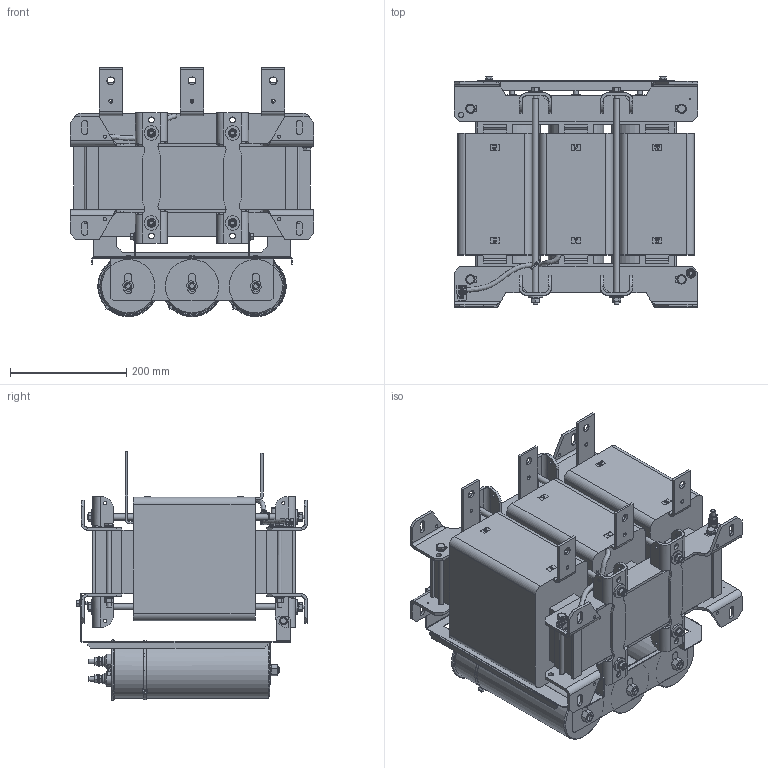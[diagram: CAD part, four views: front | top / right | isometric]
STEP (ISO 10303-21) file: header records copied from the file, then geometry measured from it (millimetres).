
FILE_DESCRIPTION(/* description */ (''),/* implementation_level */ '2;1');
FILE_NAME(/* name */ 'C:\Users\Erika.Jenzer\Desktop\CO20007647\Step Files\FN5420-300-99-E0XXT.stp',/* time_stamp */ '2021-03-02T10:09:38+01:00',/* author */ ('erika.jenzer'),/* organization */ (''),/* preprocessor_version */ 'ST-DEVELOPER v18.1',/* originating_system */ 'Autodesk Inventor 2020',/* authorisation */ '');
FILE_SCHEMA (('AUTOMOTIVE_DESIGN { 1 0 10303 214 3 1 1 }'));
Products named in the file (1): FN5420-300-99-E0XXT
Bounding box: 420 x 396.95 x 429.4 mm (x, y, z)
Volume: 28680459.1 mm3; surface area: 1799104.8 mm2
Topology: 16 solids, 16 shells, 2451 faces, 6813 edges, 4506 vertices
Faces by surface type: plane 1605, cylinder 598, cone 139, bspline 80, torus 16, sphere 13
Full cylindrical faces by diameter (mm): 0.003 x1, 1 x1, 2.013 x4, 2.5 x1, 2.8 x5, 3.4 x4, 5.5 x20, 6 x8, 6.6 x6, 8 x41, 8.2 x1, 8.4 x18, 8.6 x12, 9 x12, 9.5 x4, 10.2 x16, 10.5 x7, 11.4 x5, 11.5 x6, 12 x9, 12.5 x3, 13 x4, 13.5 x6, 16 x22, 22 x6, 24.7 x6, 25 x8, 96 x3
Entity records: 85584 total; most frequent: CARTESIAN_POINT 19919, ORIENTED_EDGE 13626, DIRECTION 12687, EDGE_CURVE 6813, VERTEX_POINT 4506, AXIS2_PLACEMENT_3D 4263, LINE 4161, VECTOR 4161
